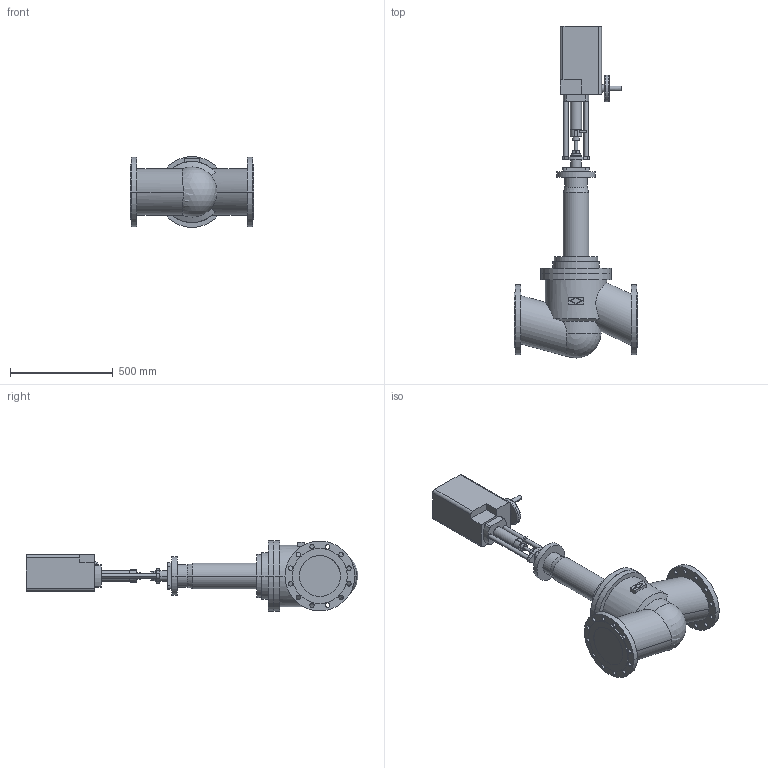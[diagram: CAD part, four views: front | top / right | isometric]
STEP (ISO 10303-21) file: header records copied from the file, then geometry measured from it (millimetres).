
FILE_DESCRIPTION( ( '' ), '1' );
FILE_NAME( 'F:/DE-SHS/TB/OR/04-Sonstiges/daten/files_3d/440-441/441-PN16-PREMIO/c000005346.stp', '2014-05-27T08:30:40', ( '' ), ( '' ), ' ', ' ', ' ' );
FILE_SCHEMA( ( 'CONFIG_CONTROL_DESIGN' ) );
Length unit declared in the file: millimetre
Products named in the file (2): 1; 2
Bounding box: 600 x 1618.81 x 345 mm (x, y, z)
Volume: 64338270.8 mm3; surface area: 1876992.1 mm2
Topology: 2 solids, 2 shells, 238 faces, 597 edges, 396 vertices
Faces by surface type: cylinder 136, plane 93, cone 4, torus 4, sphere 1
Entity records: 7996 total; most frequent: CARTESIAN_POINT 1827, DIRECTION 1362, ORIENTED_EDGE 1190, EDGE_CURVE 595, AXIS2_PLACEMENT_3D 541, VERTEX_POINT 396, EDGE_LOOP 321, CIRCLE 297
